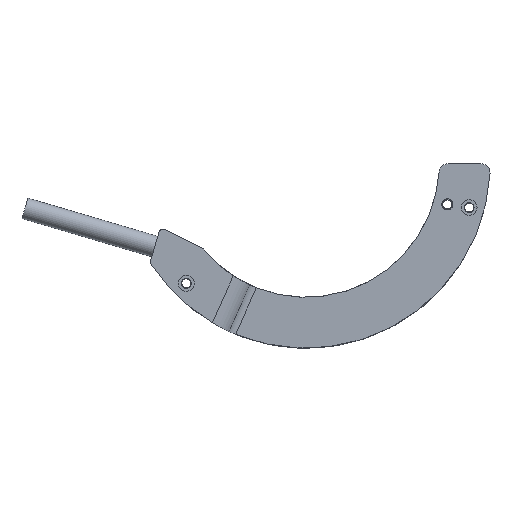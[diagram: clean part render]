
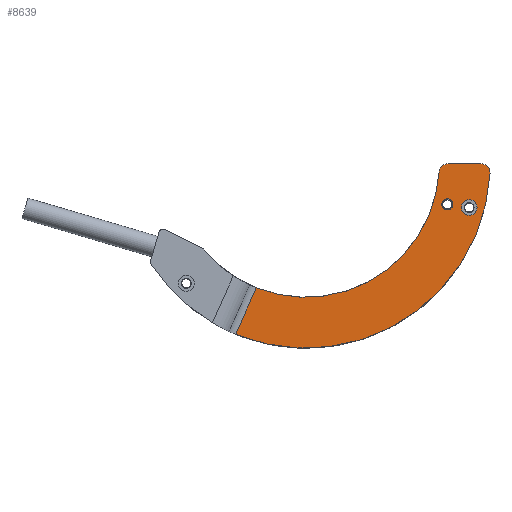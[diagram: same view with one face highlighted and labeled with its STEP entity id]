
A CAD part, top view. The second image highlights one B-rep face of the part: STEP entity #8639.
In plain terms, the highlighted planar face has unit normal (0, 0, 1).
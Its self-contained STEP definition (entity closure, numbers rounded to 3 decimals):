
#44=CIRCLE('',#10253,1.75);
#47=CIRCLE('',#10257,40.9);
#50=CIRCLE('',#10261,29.6);
#91=CIRCLE('',#10320,1.25);
#92=CIRCLE('',#10321,2.);
#93=CIRCLE('',#10322,2.);
#310=ORIENTED_EDGE('',*,*,#2668,.T.);
#311=ORIENTED_EDGE('',*,*,#2586,.T.);
#312=ORIENTED_EDGE('',*,*,#2599,.T.);
#313=ORIENTED_EDGE('',*,*,#2669,.T.);
#314=ORIENTED_EDGE('',*,*,#2591,.T.);
#315=ORIENTED_EDGE('',*,*,#2670,.T.);
#316=ORIENTED_EDGE('',*,*,#2583,.T.);
#317=ORIENTED_EDGE('',*,*,#2671,.T.);
#2583=EDGE_CURVE('',#3779,#3778,#4590,.T.);
#2586=EDGE_CURVE('',#3781,#3781,#44,.F.);
#2591=EDGE_CURVE('',#3787,#3786,#47,.T.);
#2599=EDGE_CURVE('',#3795,#3794,#50,.F.);
#2668=EDGE_CURVE('',#3846,#3846,#91,.T.);
#2669=EDGE_CURVE('',#3794,#3787,#4623,.T.);
#2670=EDGE_CURVE('',#3786,#3779,#92,.T.);
#2671=EDGE_CURVE('',#3778,#3795,#93,.T.);
#3778=VERTEX_POINT('',#13458);
#3779=VERTEX_POINT('',#13460);
#3781=VERTEX_POINT('',#13466);
#3786=VERTEX_POINT('',#13476);
#3787=VERTEX_POINT('',#13478);
#3794=VERTEX_POINT('',#13506);
#3795=VERTEX_POINT('',#13508);
#3846=VERTEX_POINT('',#13646);
#4590=LINE('',#13459,#5677);
#4623=LINE('',#13647,#5710);
#5677=VECTOR('',#10961,1000.);
#5710=VECTOR('',#11134,1000.);
#6792=EDGE_LOOP('',(#310));
#6793=EDGE_LOOP('',(#311));
#6794=EDGE_LOOP('',(#312,#313,#314,#315,#316,#317));
#7445=FACE_BOUND('',#6792,.T.);
#7446=FACE_BOUND('',#6793,.T.);
#7447=FACE_BOUND('',#6794,.T.);
#8076=PLANE('',#10319);
#8639=ADVANCED_FACE('',(#7445,#7446,#7447),#8076,.T.);
#10253=AXIS2_PLACEMENT_3D('',#13465,#10967,#10968);
#10257=AXIS2_PLACEMENT_3D('',#13477,#10977,#10978);
#10261=AXIS2_PLACEMENT_3D('',#13507,#10986,#10987);
#10319=AXIS2_PLACEMENT_3D('',#13644,#11130,#11131);
#10320=AXIS2_PLACEMENT_3D('',#13645,#11132,#11133);
#10321=AXIS2_PLACEMENT_3D('',#13648,#11135,#11136);
#10322=AXIS2_PLACEMENT_3D('',#13649,#11137,#11138);
#10961=DIRECTION('',(-1.,0.,0.));
#10967=DIRECTION('',(0.,0.,1.));
#10968=DIRECTION('',(1.,0.,0.));
#10977=DIRECTION('',(0.,0.,1.));
#10978=DIRECTION('',(1.,0.,0.));
#10986=DIRECTION('',(0.,0.,1.));
#10987=DIRECTION('',(1.,0.,0.));
#11130=DIRECTION('',(0.,0.,1.));
#11131=DIRECTION('',(1.,0.,0.));
#11132=DIRECTION('',(0.,0.,-1.));
#11133=DIRECTION('',(0.,-1.,0.));
#11134=DIRECTION('',(-0.407,-0.914,0.));
#11135=DIRECTION('',(0.,0.,1.));
#11136=DIRECTION('',(1.,0.,0.));
#11137=DIRECTION('',(0.,0.,1.));
#11138=DIRECTION('',(1.,0.,0.));
#13458=CARTESIAN_POINT('',(31.537,0.,3.));
#13459=CARTESIAN_POINT('',(29.6,0.,3.));
#13460=CARTESIAN_POINT('',(38.849,0.,3.));
#13465=CARTESIAN_POINT('',(36.222,-9.706,3.));
#13466=CARTESIAN_POINT('',(37.972,-9.706,3.));
#13476=CARTESIAN_POINT('',(40.846,-2.103,3.));
#13477=CARTESIAN_POINT('',(0.,0.,3.));
#13478=CARTESIAN_POINT('',(-15.567,-37.822,3.));
#13506=CARTESIAN_POINT('',(-10.969,-27.493,3.));
#13507=CARTESIAN_POINT('',(0.,0.,3.));
#13508=CARTESIAN_POINT('',(29.541,-1.873,3.));
#13644=CARTESIAN_POINT('',(0.,0.,3.));
#13645=CARTESIAN_POINT('',(31.385,-8.998,3.));
#13646=CARTESIAN_POINT('',(31.385,-10.248,3.));
#13647=CARTESIAN_POINT('',(-15.574,-37.837,3.));
#13648=CARTESIAN_POINT('',(38.849,-2.,3.));
#13649=CARTESIAN_POINT('',(31.537,-2.,3.));
